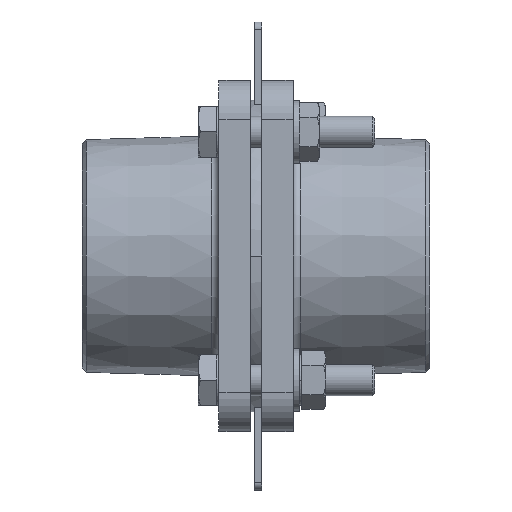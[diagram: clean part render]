
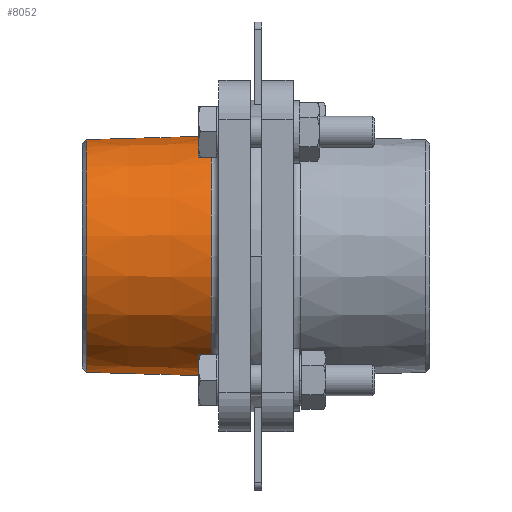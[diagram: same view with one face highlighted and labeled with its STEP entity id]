
A CAD part, left-side view. The second image highlights one B-rep face of the part: STEP entity #8052.
In plain terms, the highlighted conical face has half-angle 1.637 degrees and reference radius 30.744 mm.
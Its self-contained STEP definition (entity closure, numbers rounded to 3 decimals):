
#989 = CARTESIAN_POINT ( 'NONE',  ( 1.279, 3.997, 3.364 ) ) ;
#990 = DIRECTION ( 'NONE',  ( 0., -1., 0. ) ) ;
#991 = DIRECTION ( 'NONE',  ( 0., 0., -1. ) ) ;
#992 = CARTESIAN_POINT ( 'NONE',  ( 1.279, 3.997, -27.38 ) ) ;
#993 = DIRECTION ( 'NONE',  ( 0., -1., -0.029 ) ) ;
#997 = DIRECTION ( 'NONE',  ( 0., -1., 0.029 ) ) ;
#1001 = CARTESIAN_POINT ( 'NONE',  ( 1.279, 3.997, 34.109 ) ) ;
#1143 = EDGE_CURVE ( 'NONE', #1605, #1602, #1836, .T. ) ;
#1146 = EDGE_CURVE ( 'NONE', #1385, #1602, #1840, .T. ) ;
#1148 = EDGE_CURVE ( 'NONE', #1619, #1605, #1843, .T. ) ;
#1189 = EDGE_CURVE ( 'NONE', #1619, #1385, #1900, .T. ) ;
#1385 = VERTEX_POINT ( 'NONE', #7793 ) ;
#1602 = VERTEX_POINT ( 'NONE', #9366 ) ;
#1605 = VERTEX_POINT ( 'NONE', #9369 ) ;
#1619 = VERTEX_POINT ( 'NONE', #9383 ) ;
#1836 = CIRCLE ( 'NONE', #6269, 30.744 ) ;
#1840 = LINE ( 'NONE', #992, #1842 ) ;
#1842 = VECTOR ( 'NONE', #993, 1000. ) ;
#1843 = LINE ( 'NONE', #1001, #1845 ) ;
#1845 = VECTOR ( 'NONE', #997, 1000. ) ;
#1900 = CIRCLE ( 'NONE', #6288, 29.829 ) ;
#3154 = ORIENTED_EDGE ( 'NONE', *, *, #1148, .F. ) ;
#3155 = ORIENTED_EDGE ( 'NONE', *, *, #1189, .T. ) ;
#3156 = ORIENTED_EDGE ( 'NONE', *, *, #1146, .T. ) ;
#3157 = ORIENTED_EDGE ( 'NONE', *, *, #1143, .F. ) ;
#4615 = CARTESIAN_POINT ( 'NONE',  ( 1.279, 3.997, 3.364 ) ) ;
#4616 = DIRECTION ( 'NONE',  ( 0., -1., 0. ) ) ;
#4624 = DIRECTION ( 'NONE',  ( 0., 0., -1. ) ) ;
#6269 = AXIS2_PLACEMENT_3D ( 'NONE', #989, #990, #991 ) ;
#6288 = AXIS2_PLACEMENT_3D ( 'NONE', #14429, #14430, #14431 ) ;
#6900 = AXIS2_PLACEMENT_3D ( 'NONE', #4615, #4616, #4624 ) ;
#7793 = CARTESIAN_POINT ( 'NONE',  ( 1.279, 36.025, -26.465 ) ) ;
#8052 = ADVANCED_FACE ( 'NONE', ( #11919 ), #11925, .T. ) ;
#8288 = EDGE_LOOP ( 'NONE', ( #3154, #3155, #3156, #3157 ) ) ;
#9366 = CARTESIAN_POINT ( 'NONE',  ( 1.279, 3.997, -27.38 ) ) ;
#9369 = CARTESIAN_POINT ( 'NONE',  ( 1.279, 3.997, 34.109 ) ) ;
#9383 = CARTESIAN_POINT ( 'NONE',  ( 1.279, 36.025, 33.194 ) ) ;
#11919 = FACE_OUTER_BOUND ( 'NONE', #8288, .T. ) ;
#11925 = CONICAL_SURFACE ( 'NONE', #6900, 30.744, 0.029 ) ;
#14429 = CARTESIAN_POINT ( 'NONE',  ( 1.279, 36.025, 3.364 ) ) ;
#14430 = DIRECTION ( 'NONE',  ( 0., -1., 0. ) ) ;
#14431 = DIRECTION ( 'NONE',  ( 0., 0., 1. ) ) ;
